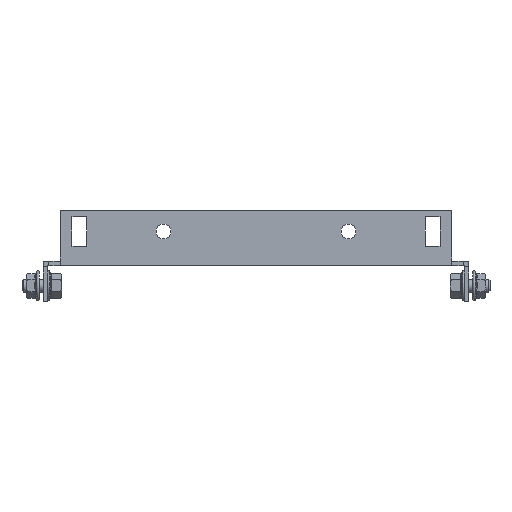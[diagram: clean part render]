
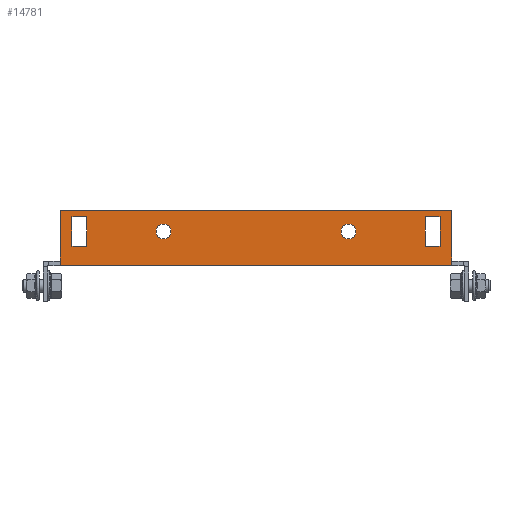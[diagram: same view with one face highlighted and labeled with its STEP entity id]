
A CAD part, front view. The second image highlights one B-rep face of the part: STEP entity #14781.
In plain terms, the highlighted planar face has unit normal (0, -1, 0).
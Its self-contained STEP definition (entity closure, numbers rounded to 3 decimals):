
#12826 = VERTEX_POINT('',#12827);
#12827 = CARTESIAN_POINT('',(92.,-184.5,0.));
#12833 = EDGE_CURVE('',#12834,#12826,#12836,.T.);
#12834 = VERTEX_POINT('',#12835);
#12835 = CARTESIAN_POINT('',(-92.,-184.5,0.));
#12836 = LINE('',#12837,#12838);
#12837 = CARTESIAN_POINT('',(-92.,-184.5,0.));
#12838 = VECTOR('',#12839,1.);
#12839 = DIRECTION('',(1.,-0.,-0.));
#14660 = VERTEX_POINT('',#14661);
#14661 = CARTESIAN_POINT('',(-92.,-184.5,2.6));
#14676 = EDGE_CURVE('',#14660,#12834,#14677,.T.);
#14677 = LINE('',#14678,#14679);
#14678 = CARTESIAN_POINT('',(-92.,-184.5,2.6));
#14679 = VECTOR('',#14680,1.);
#14680 = DIRECTION('',(0.,0.,-1.));
#14700 = VERTEX_POINT('',#14701);
#14701 = CARTESIAN_POINT('',(92.,-184.5,2.6));
#14707 = EDGE_CURVE('',#14700,#12826,#14708,.T.);
#14708 = LINE('',#14709,#14710);
#14709 = CARTESIAN_POINT('',(92.,-184.5,2.));
#14710 = VECTOR('',#14711,1.);
#14711 = DIRECTION('',(-0.,0.,-1.));
#14733 = VERTEX_POINT('',#14734);
#14734 = CARTESIAN_POINT('',(92.,-184.5,26.));
#14740 = EDGE_CURVE('',#14700,#14733,#14741,.T.);
#14741 = LINE('',#14742,#14743);
#14742 = CARTESIAN_POINT('',(92.,-184.5,26.));
#14743 = VECTOR('',#14744,1.);
#14744 = DIRECTION('',(0.,0.,1.));
#14755 = EDGE_CURVE('',#14756,#14660,#14758,.T.);
#14756 = VERTEX_POINT('',#14757);
#14757 = CARTESIAN_POINT('',(-92.,-184.5,26.));
#14758 = LINE('',#14759,#14760);
#14759 = CARTESIAN_POINT('',(-92.,-184.5,2.));
#14760 = VECTOR('',#14761,1.);
#14761 = DIRECTION('',(0.,0.,-1.));
#14781 = ADVANCED_FACE('',(#14782,#14816,#14827,#14838,#14872),#14885,
  .F.);
#14782 = FACE_BOUND('',#14783,.T.);
#14783 = EDGE_LOOP('',(#14784,#14794,#14802,#14810));
#14784 = ORIENTED_EDGE('',*,*,#14785,.F.);
#14785 = EDGE_CURVE('',#14786,#14788,#14790,.T.);
#14786 = VERTEX_POINT('',#14787);
#14787 = CARTESIAN_POINT('',(86.5,-184.5,9.));
#14788 = VERTEX_POINT('',#14789);
#14789 = CARTESIAN_POINT('',(86.5,-184.5,23.));
#14790 = LINE('',#14791,#14792);
#14791 = CARTESIAN_POINT('',(86.5,-184.5,23.));
#14792 = VECTOR('',#14793,1.);
#14793 = DIRECTION('',(-0.,0.,1.));
#14794 = ORIENTED_EDGE('',*,*,#14795,.F.);
#14795 = EDGE_CURVE('',#14796,#14786,#14798,.T.);
#14796 = VERTEX_POINT('',#14797);
#14797 = CARTESIAN_POINT('',(79.5,-184.5,9.));
#14798 = LINE('',#14799,#14800);
#14799 = CARTESIAN_POINT('',(86.5,-184.5,9.));
#14800 = VECTOR('',#14801,1.);
#14801 = DIRECTION('',(1.,-0.,-0.));
#14802 = ORIENTED_EDGE('',*,*,#14803,.F.);
#14803 = EDGE_CURVE('',#14804,#14796,#14806,.T.);
#14804 = VERTEX_POINT('',#14805);
#14805 = CARTESIAN_POINT('',(79.5,-184.5,23.));
#14806 = LINE('',#14807,#14808);
#14807 = CARTESIAN_POINT('',(79.5,-184.5,9.));
#14808 = VECTOR('',#14809,1.);
#14809 = DIRECTION('',(-0.,0.,-1.));
#14810 = ORIENTED_EDGE('',*,*,#14811,.F.);
#14811 = EDGE_CURVE('',#14788,#14804,#14812,.T.);
#14812 = LINE('',#14813,#14814);
#14813 = CARTESIAN_POINT('',(79.5,-184.5,23.));
#14814 = VECTOR('',#14815,1.);
#14815 = DIRECTION('',(-1.,-0.,-0.));
#14816 = FACE_BOUND('',#14817,.T.);
#14817 = EDGE_LOOP('',(#14818));
#14818 = ORIENTED_EDGE('',*,*,#14819,.F.);
#14819 = EDGE_CURVE('',#14820,#14820,#14822,.T.);
#14820 = VERTEX_POINT('',#14821);
#14821 = CARTESIAN_POINT('',(43.5,-184.5,19.5));
#14822 = CIRCLE('',#14823,3.5);
#14823 = AXIS2_PLACEMENT_3D('',#14824,#14825,#14826);
#14824 = CARTESIAN_POINT('',(43.5,-184.5,16.));
#14825 = DIRECTION('',(0.,-1.,0.));
#14826 = DIRECTION('',(0.,0.,1.));
#14827 = FACE_BOUND('',#14828,.T.);
#14828 = EDGE_LOOP('',(#14829));
#14829 = ORIENTED_EDGE('',*,*,#14830,.F.);
#14830 = EDGE_CURVE('',#14831,#14831,#14833,.T.);
#14831 = VERTEX_POINT('',#14832);
#14832 = CARTESIAN_POINT('',(-43.5,-184.5,12.5));
#14833 = CIRCLE('',#14834,3.5);
#14834 = AXIS2_PLACEMENT_3D('',#14835,#14836,#14837);
#14835 = CARTESIAN_POINT('',(-43.5,-184.5,16.));
#14836 = DIRECTION('',(0.,-1.,0.));
#14837 = DIRECTION('',(0.,0.,-1.));
#14838 = FACE_BOUND('',#14839,.T.);
#14839 = EDGE_LOOP('',(#14840,#14850,#14858,#14866));
#14840 = ORIENTED_EDGE('',*,*,#14841,.F.);
#14841 = EDGE_CURVE('',#14842,#14844,#14846,.T.);
#14842 = VERTEX_POINT('',#14843);
#14843 = CARTESIAN_POINT('',(-86.5,-184.5,23.));
#14844 = VERTEX_POINT('',#14845);
#14845 = CARTESIAN_POINT('',(-86.5,-184.5,9.));
#14846 = LINE('',#14847,#14848);
#14847 = CARTESIAN_POINT('',(-86.5,-184.5,9.));
#14848 = VECTOR('',#14849,1.);
#14849 = DIRECTION('',(-0.,0.,-1.));
#14850 = ORIENTED_EDGE('',*,*,#14851,.F.);
#14851 = EDGE_CURVE('',#14852,#14842,#14854,.T.);
#14852 = VERTEX_POINT('',#14853);
#14853 = CARTESIAN_POINT('',(-79.5,-184.5,23.));
#14854 = LINE('',#14855,#14856);
#14855 = CARTESIAN_POINT('',(-86.5,-184.5,23.));
#14856 = VECTOR('',#14857,1.);
#14857 = DIRECTION('',(-1.,-0.,-0.));
#14858 = ORIENTED_EDGE('',*,*,#14859,.F.);
#14859 = EDGE_CURVE('',#14860,#14852,#14862,.T.);
#14860 = VERTEX_POINT('',#14861);
#14861 = CARTESIAN_POINT('',(-79.5,-184.5,9.));
#14862 = LINE('',#14863,#14864);
#14863 = CARTESIAN_POINT('',(-79.5,-184.5,23.));
#14864 = VECTOR('',#14865,1.);
#14865 = DIRECTION('',(-0.,0.,1.));
#14866 = ORIENTED_EDGE('',*,*,#14867,.F.);
#14867 = EDGE_CURVE('',#14844,#14860,#14868,.T.);
#14868 = LINE('',#14869,#14870);
#14869 = CARTESIAN_POINT('',(-79.5,-184.5,9.));
#14870 = VECTOR('',#14871,1.);
#14871 = DIRECTION('',(1.,-0.,-0.));
#14872 = FACE_BOUND('',#14873,.T.);
#14873 = EDGE_LOOP('',(#14874,#14875,#14876,#14877,#14878,#14879));
#14874 = ORIENTED_EDGE('',*,*,#14755,.T.);
#14875 = ORIENTED_EDGE('',*,*,#14676,.T.);
#14876 = ORIENTED_EDGE('',*,*,#12833,.T.);
#14877 = ORIENTED_EDGE('',*,*,#14707,.F.);
#14878 = ORIENTED_EDGE('',*,*,#14740,.T.);
#14879 = ORIENTED_EDGE('',*,*,#14880,.T.);
#14880 = EDGE_CURVE('',#14733,#14756,#14881,.T.);
#14881 = LINE('',#14882,#14883);
#14882 = CARTESIAN_POINT('',(-92.,-184.5,26.));
#14883 = VECTOR('',#14884,1.);
#14884 = DIRECTION('',(-1.,-0.,-0.));
#14885 = PLANE('',#14886);
#14886 = AXIS2_PLACEMENT_3D('',#14887,#14888,#14889);
#14887 = CARTESIAN_POINT('',(92.,-184.5,2.));
#14888 = DIRECTION('',(-0.,1.,0.));
#14889 = DIRECTION('',(0.,0.,1.));
